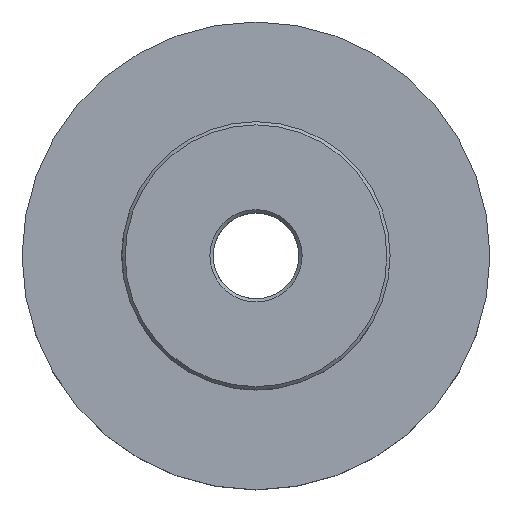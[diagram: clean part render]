
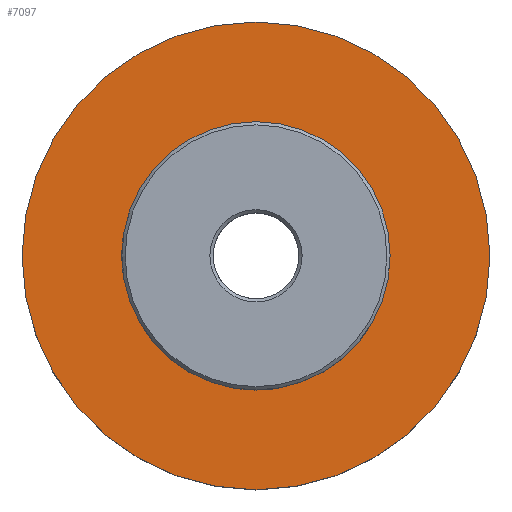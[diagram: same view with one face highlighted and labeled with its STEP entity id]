
A CAD part, top view. The second image highlights one B-rep face of the part: STEP entity #7097.
In plain terms, the highlighted planar face has unit normal (0, 0, 1).
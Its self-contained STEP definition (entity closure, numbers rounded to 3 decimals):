
#20=PLANE('',#8216);
#31=FACE_BOUND('',#798,.T.);
#414=FACE_OUTER_BOUND('',#797,.T.);
#797=EDGE_LOOP('',(#5617));
#798=EDGE_LOOP('',(#5618));
#2281=CIRCLE('',#8214,12.5);
#2282=CIRCLE('',#8217,21.8);
#3020=VERTEX_POINT('',#13277);
#3021=VERTEX_POINT('',#13283);
#4126=EDGE_CURVE('',#3020,#3020,#2281,.T.);
#4128=EDGE_CURVE('',#3021,#3021,#2282,.T.);
#5617=ORIENTED_EDGE('',*,*,#4128,.T.);
#5618=ORIENTED_EDGE('',*,*,#4126,.T.);
#7097=ADVANCED_FACE('',(#414,#31),#20,.T.);
#8214=AXIS2_PLACEMENT_3D('',#13279,#10790,#10791);
#8216=AXIS2_PLACEMENT_3D('',#13282,#10795,#10796);
#8217=AXIS2_PLACEMENT_3D('',#13284,#10797,#10798);
#10790=DIRECTION('center_axis',(0.,0.,-1.));
#10791=DIRECTION('ref_axis',(-1.,0.,0.));
#10795=DIRECTION('center_axis',(0.,0.,1.));
#10796=DIRECTION('ref_axis',(-1.,0.,0.));
#10797=DIRECTION('center_axis',(0.,0.,1.));
#10798=DIRECTION('ref_axis',(-1.,0.,0.));
#13277=CARTESIAN_POINT('',(12.5,0.,5.));
#13279=CARTESIAN_POINT('Origin',(0.,0.,5.));
#13282=CARTESIAN_POINT('Origin',(0.,0.,5.));
#13283=CARTESIAN_POINT('',(21.8,0.,5.));
#13284=CARTESIAN_POINT('Origin',(0.,0.,5.));
